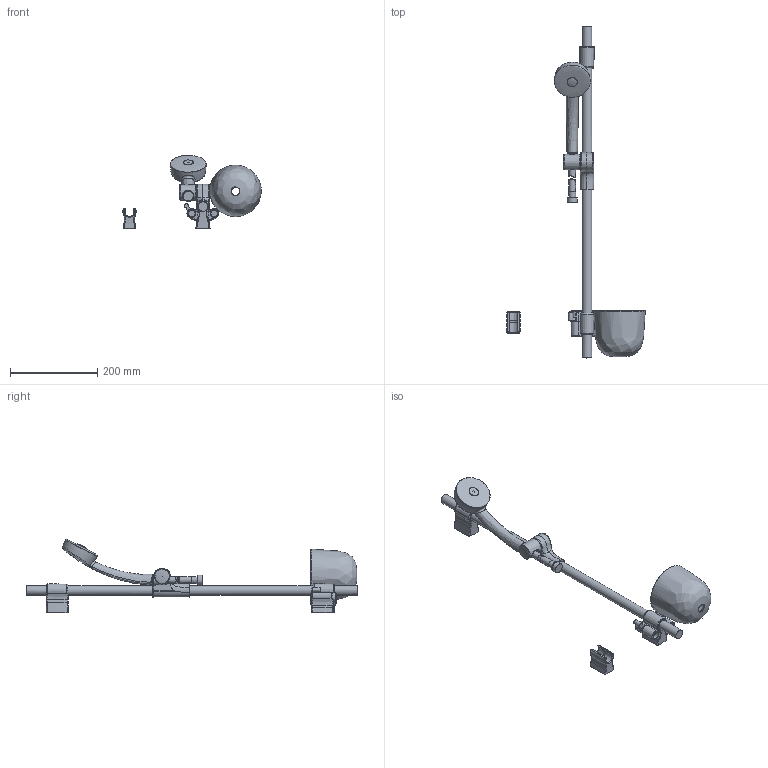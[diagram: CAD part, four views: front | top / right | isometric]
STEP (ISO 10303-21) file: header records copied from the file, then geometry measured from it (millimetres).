
FILE_DESCRIPTION (( 'STEP AP203' ), '1' );
FILE_NAME ('500.STEP', '2017-03-09T05:54:04', ( '' ), ( '' ), 'SwSTEP 2.0', 'SolidWorks 2016', '' );
FILE_SCHEMA (( 'CONFIG_CONTROL_DESIGN' ));
Length unit declared in the file: millimetre
Products named in the file (1): 500
Bounding box: 317.04 x 760 x 167.55 mm (x, y, z)
Volume: 979277.3 mm3; surface area: 239739.1 mm2
Topology: 10 solids, 10 shells, 484 faces, 1189 edges, 725 vertices
Faces by surface type: bspline 283, cone 61, torus 53, plane 38, cylinder 36, sphere 13
Full cylindrical faces by diameter (mm): 4 x1, 4.3 x1, 15 x2, 16.1 x1, 18 x1, 18.982 x1, 21.9 x4, 22.55 x1, 22.6 x1, 22.65 x1, 22.95 x1, 32.658 x1
Entity records: 62866 total; most frequent: CARTESIAN_POINT 54105, ORIENTED_EDGE 2206, DIRECTION 1144, EDGE_CURVE 1103, B_SPLINE_CURVE_WITH_KNOTS 697, VERTEX_POINT 695, EDGE_LOOP 546, AXIS2_PLACEMENT_3D 545
